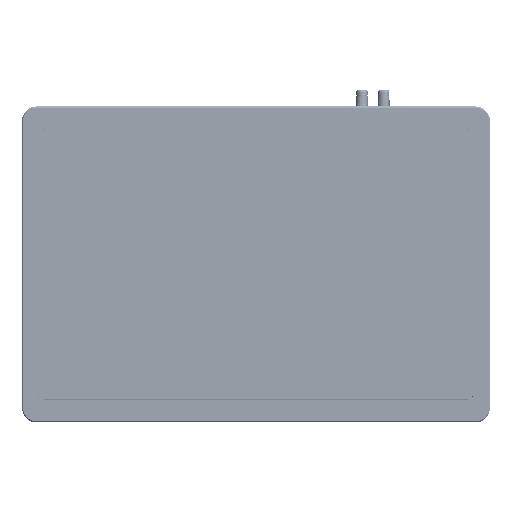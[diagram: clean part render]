
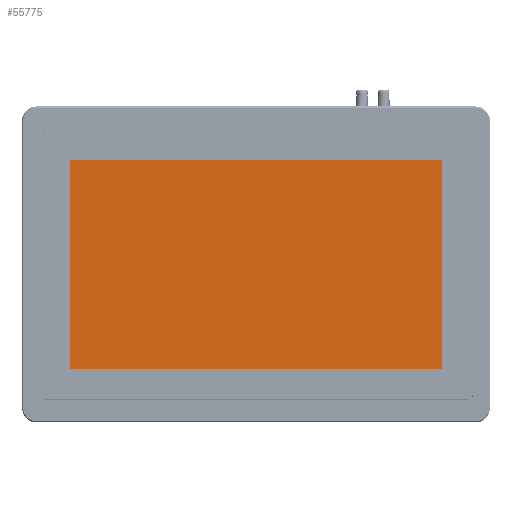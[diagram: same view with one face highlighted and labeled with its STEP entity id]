
A CAD part, top view. The second image highlights one B-rep face of the part: STEP entity #55775.
In plain terms, the highlighted planar face has unit normal (0, 0, 1).
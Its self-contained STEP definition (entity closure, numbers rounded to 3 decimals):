
#4026=LINE('',#520878,#7108);
#4030=LINE('',#520887,#7112);
#4033=LINE('',#520893,#7115);
#4036=LINE('',#520899,#7118);
#7108=VECTOR('',#253357,1.);
#7112=VECTOR('',#253363,1.);
#7115=VECTOR('',#253368,1.);
#7118=VECTOR('',#253373,1.);
#55775=ADVANCED_FACE('',(#73469),#61293,.T.);
#61293=PLANE('',#222340);
#73469=FACE_OUTER_BOUND('',#87008,.T.);
#87008=EDGE_LOOP('',(#152409,#152410,#152411,#152412));
#152409=ORIENTED_EDGE('',*,*,#206336,.T.);
#152410=ORIENTED_EDGE('',*,*,#206346,.T.);
#152411=ORIENTED_EDGE('',*,*,#206343,.T.);
#152412=ORIENTED_EDGE('',*,*,#206340,.T.);
#173567=VERTEX_POINT('',#520879);
#173568=VERTEX_POINT('',#520880);
#173571=VERTEX_POINT('',#520888);
#173573=VERTEX_POINT('',#520894);
#206336=EDGE_CURVE('',#173567,#173568,#4026,.T.);
#206340=EDGE_CURVE('',#173571,#173567,#4030,.T.);
#206343=EDGE_CURVE('',#173573,#173571,#4033,.T.);
#206346=EDGE_CURVE('',#173568,#173573,#4036,.T.);
#222340=AXIS2_PLACEMENT_3D('',#520903,#253379,#253380);
#253357=DIRECTION('',(0.,-1.,0.));
#253363=DIRECTION('',(-1.,0.,0.));
#253368=DIRECTION('',(0.,1.,0.));
#253373=DIRECTION('',(1.,0.,0.));
#253379=DIRECTION('',(0.,0.,1.));
#253380=DIRECTION('',(1.,0.,0.));
#520878=CARTESIAN_POINT('',(-205.105,88.082,10.25));
#520879=CARTESIAN_POINT('',(-205.105,88.082,10.25));
#520880=CARTESIAN_POINT('',(-205.105,-56.698,10.25));
#520887=CARTESIAN_POINT('',(-205.105,88.082,10.25));
#520888=CARTESIAN_POINT('',(51.815,88.082,10.25));
#520893=CARTESIAN_POINT('',(51.815,88.082,10.25));
#520894=CARTESIAN_POINT('',(51.815,-56.698,10.25));
#520899=CARTESIAN_POINT('',(-205.105,-56.698,10.25));
#520903=CARTESIAN_POINT('',(-297.898,648.264,10.25));
